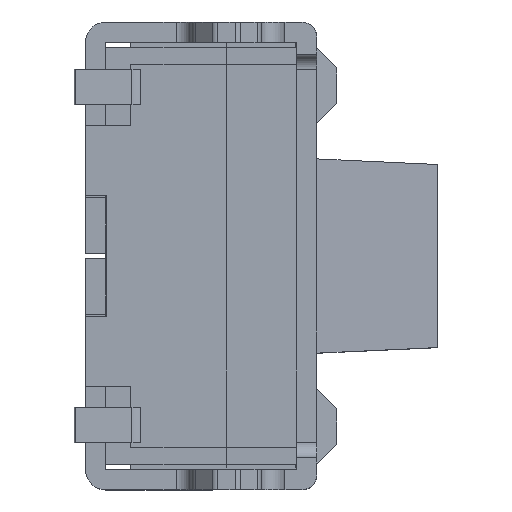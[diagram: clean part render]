
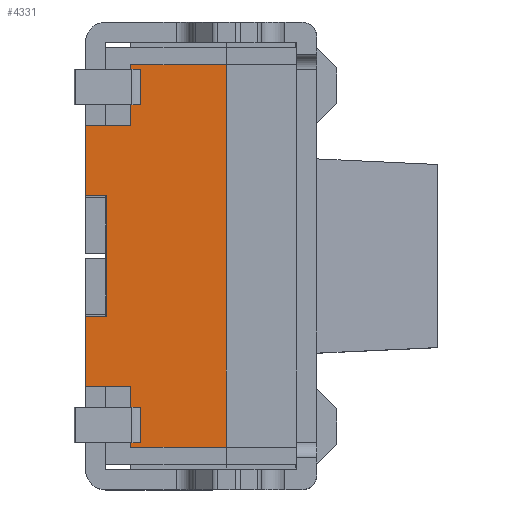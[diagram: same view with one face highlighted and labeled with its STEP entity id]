
A CAD part, top view. The second image highlights one B-rep face of the part: STEP entity #4331.
In plain terms, the highlighted planar face has unit normal (0, 0, 1).
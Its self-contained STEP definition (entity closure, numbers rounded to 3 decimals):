
#589=DIRECTION('',(1.,0.,0.));
#590=VECTOR('',#589,0.21);
#591=CARTESIAN_POINT('',(0.,0.6,0.925));
#592=LINE('',#591,#590);
#659=DIRECTION('',(0.,-1.,0.));
#660=VECTOR('',#659,3.8);
#661=CARTESIAN_POINT('',(1.4,1.9,0.925));
#662=LINE('',#661,#660);
#666=DIRECTION('',(1.,0.,0.));
#667=VECTOR('',#666,0.097);
#668=CARTESIAN_POINT('',(0.45,-1.855,0.925));
#669=LINE('',#668,#667);
#673=DIRECTION('',(0.,1.,0.));
#674=VECTOR('',#673,0.35);
#675=CARTESIAN_POINT('',(0.547,-1.855,0.925));
#676=LINE('',#675,#674);
#680=DIRECTION('',(1.,0.,0.));
#681=VECTOR('',#680,0.097);
#682=CARTESIAN_POINT('',(0.45,-1.505,0.925));
#683=LINE('',#682,#681);
#687=DIRECTION('',(0.,1.,0.));
#688=VECTOR('',#687,0.7);
#689=CARTESIAN_POINT('',(0.,-1.3,0.925));
#690=LINE('',#689,#688);
#694=DIRECTION('',(0.,1.,0.));
#695=VECTOR('',#694,1.2);
#696=CARTESIAN_POINT('',(0.21,-0.6,0.925));
#697=LINE('',#696,#695);
#701=DIRECTION('',(0.,1.,0.));
#702=VECTOR('',#701,0.7);
#703=CARTESIAN_POINT('',(0.,0.6,0.925));
#704=LINE('',#703,#702);
#708=DIRECTION('',(-1.,0.,0.));
#709=VECTOR('',#708,0.45);
#710=CARTESIAN_POINT('',(0.45,1.3,0.925));
#711=LINE('',#710,#709);
#715=DIRECTION('',(1.,0.,0.));
#716=VECTOR('',#715,0.097);
#717=CARTESIAN_POINT('',(0.45,1.505,0.925));
#718=LINE('',#717,#716);
#722=DIRECTION('',(0.,1.,0.));
#723=VECTOR('',#722,0.35);
#724=CARTESIAN_POINT('',(0.547,1.505,0.925));
#725=LINE('',#724,#723);
#729=DIRECTION('',(1.,0.,0.));
#730=VECTOR('',#729,0.097);
#731=CARTESIAN_POINT('',(0.45,1.855,0.925));
#732=LINE('',#731,#730);
#799=DIRECTION('',(1.,0.,0.));
#800=VECTOR('',#799,0.95);
#801=CARTESIAN_POINT('',(0.45,1.9,0.925));
#802=LINE('',#801,#800);
#813=DIRECTION('',(0.,1.,0.));
#814=VECTOR('',#813,0.205);
#815=CARTESIAN_POINT('',(0.45,1.3,0.925));
#816=LINE('',#815,#814);
#834=DIRECTION('',(0.,1.,0.));
#835=VECTOR('',#834,0.045);
#836=CARTESIAN_POINT('',(0.45,1.855,0.925));
#837=LINE('',#836,#835);
#1011=DIRECTION('',(-1.,0.,0.));
#1012=VECTOR('',#1011,0.21);
#1013=CARTESIAN_POINT('',(0.21,-0.6,0.925));
#1014=LINE('',#1013,#1012);
#1200=DIRECTION('',(1.,0.,0.));
#1201=VECTOR('',#1200,0.45);
#1202=CARTESIAN_POINT('',(0.,-1.3,0.925));
#1203=LINE('',#1202,#1201);
#1228=DIRECTION('',(0.,1.,0.));
#1229=VECTOR('',#1228,0.045);
#1230=CARTESIAN_POINT('',(0.45,-1.9,0.925));
#1231=LINE('',#1230,#1229);
#1249=DIRECTION('',(0.,1.,0.));
#1250=VECTOR('',#1249,0.205);
#1251=CARTESIAN_POINT('',(0.45,-1.505,0.925));
#1252=LINE('',#1251,#1250);
#1356=DIRECTION('',(-1.,0.,0.));
#1357=VECTOR('',#1356,0.95);
#1358=CARTESIAN_POINT('',(1.4,-1.9,0.925));
#1359=LINE('',#1358,#1357);
#3556=CARTESIAN_POINT('',(0.45,1.3,0.925));
#3557=CARTESIAN_POINT('',(0.,1.3,0.925));
#3558=VERTEX_POINT('',#3556);
#3559=VERTEX_POINT('',#3557);
#3560=CARTESIAN_POINT('',(0.,-1.3,0.925));
#3561=CARTESIAN_POINT('',(0.45,-1.3,0.925));
#3562=VERTEX_POINT('',#3560);
#3563=VERTEX_POINT('',#3561);
#3564=CARTESIAN_POINT('',(0.45,1.505,0.925));
#3565=CARTESIAN_POINT('',(0.547,1.505,0.925));
#3566=VERTEX_POINT('',#3564);
#3567=VERTEX_POINT('',#3565);
#3568=CARTESIAN_POINT('',(0.45,1.855,0.925));
#3569=CARTESIAN_POINT('',(0.547,1.855,0.925));
#3570=VERTEX_POINT('',#3568);
#3571=VERTEX_POINT('',#3569);
#3572=CARTESIAN_POINT('',(0.45,1.9,0.925));
#3573=VERTEX_POINT('',#3572);
#3574=CARTESIAN_POINT('',(0.45,-1.855,0.925));
#3575=CARTESIAN_POINT('',(0.547,-1.855,0.925));
#3576=VERTEX_POINT('',#3574);
#3577=VERTEX_POINT('',#3575);
#3578=CARTESIAN_POINT('',(0.45,-1.505,0.925));
#3579=CARTESIAN_POINT('',(0.547,-1.505,0.925));
#3580=VERTEX_POINT('',#3578);
#3581=VERTEX_POINT('',#3579);
#3582=CARTESIAN_POINT('',(0.45,-1.9,0.925));
#3583=VERTEX_POINT('',#3582);
#3584=CARTESIAN_POINT('',(0.,-0.6,0.925));
#3585=VERTEX_POINT('',#3584);
#3594=CARTESIAN_POINT('',(0.,0.6,0.925));
#3595=VERTEX_POINT('',#3594);
#3604=CARTESIAN_POINT('',(0.21,-0.6,0.925));
#3605=CARTESIAN_POINT('',(0.21,0.6,0.925));
#3606=VERTEX_POINT('',#3604);
#3607=VERTEX_POINT('',#3605);
#3733=CARTESIAN_POINT('',(1.4,1.9,0.925));
#3735=VERTEX_POINT('',#3733);
#3744=CARTESIAN_POINT('',(1.4,-1.9,0.925));
#3746=VERTEX_POINT('',#3744);
#4285=CARTESIAN_POINT('',(1.125,0.,0.925));
#4286=DIRECTION('',(0.,0.,1.));
#4287=DIRECTION('',(0.,-1.,0.));
#4288=AXIS2_PLACEMENT_3D('',#4285,#4286,#4287);
#4289=PLANE('',#4288);
#4291=ORIENTED_EDGE('',*,*,#4290,.T.);
#4293=ORIENTED_EDGE('',*,*,#4292,.T.);
#4295=ORIENTED_EDGE('',*,*,#4294,.T.);
#4297=ORIENTED_EDGE('',*,*,#4296,.T.);
#4299=ORIENTED_EDGE('',*,*,#4298,.T.);
#4301=ORIENTED_EDGE('',*,*,#4300,.F.);
#4303=ORIENTED_EDGE('',*,*,#4302,.T.);
#4305=ORIENTED_EDGE('',*,*,#4304,.F.);
#4307=ORIENTED_EDGE('',*,*,#4306,.T.);
#4309=ORIENTED_EDGE('',*,*,#4308,.F.);
#4311=ORIENTED_EDGE('',*,*,#4310,.T.);
#4312=ORIENTED_EDGE('',*,*,#4241,.F.);
#4314=ORIENTED_EDGE('',*,*,#4313,.T.);
#4316=ORIENTED_EDGE('',*,*,#4315,.F.);
#4318=ORIENTED_EDGE('',*,*,#4317,.T.);
#4320=ORIENTED_EDGE('',*,*,#4319,.T.);
#4322=ORIENTED_EDGE('',*,*,#4321,.T.);
#4324=ORIENTED_EDGE('',*,*,#4323,.F.);
#4326=ORIENTED_EDGE('',*,*,#4325,.T.);
#4328=ORIENTED_EDGE('',*,*,#4327,.T.);
#4329=EDGE_LOOP('',(#4291,#4293,#4295,#4297,#4299,#4301,#4303,#4305,#4307,#4309,
#4311,#4312,#4314,#4316,#4318,#4320,#4322,#4324,#4326,#4328));
#4330=FACE_OUTER_BOUND('',#4329,.F.);
#4241=EDGE_CURVE('',#3595,#3607,#592,.T.);
#4290=EDGE_CURVE('',#3735,#3746,#662,.T.);
#4292=EDGE_CURVE('',#3746,#3583,#1359,.T.);
#4294=EDGE_CURVE('',#3583,#3576,#1231,.T.);
#4296=EDGE_CURVE('',#3576,#3577,#669,.T.);
#4298=EDGE_CURVE('',#3577,#3581,#676,.T.);
#4300=EDGE_CURVE('',#3580,#3581,#683,.T.);
#4302=EDGE_CURVE('',#3580,#3563,#1252,.T.);
#4304=EDGE_CURVE('',#3562,#3563,#1203,.T.);
#4306=EDGE_CURVE('',#3562,#3585,#690,.T.);
#4308=EDGE_CURVE('',#3606,#3585,#1014,.T.);
#4310=EDGE_CURVE('',#3606,#3607,#697,.T.);
#4313=EDGE_CURVE('',#3595,#3559,#704,.T.);
#4315=EDGE_CURVE('',#3558,#3559,#711,.T.);
#4317=EDGE_CURVE('',#3558,#3566,#816,.T.);
#4319=EDGE_CURVE('',#3566,#3567,#718,.T.);
#4321=EDGE_CURVE('',#3567,#3571,#725,.T.);
#4323=EDGE_CURVE('',#3570,#3571,#732,.T.);
#4325=EDGE_CURVE('',#3570,#3573,#837,.T.);
#4327=EDGE_CURVE('',#3573,#3735,#802,.T.);
#4331=ADVANCED_FACE('',(#4330),#4289,.T.);
